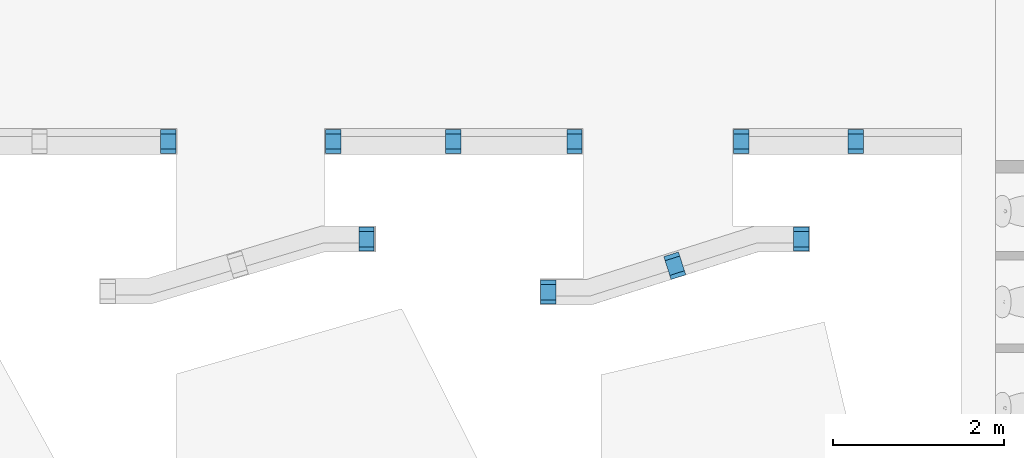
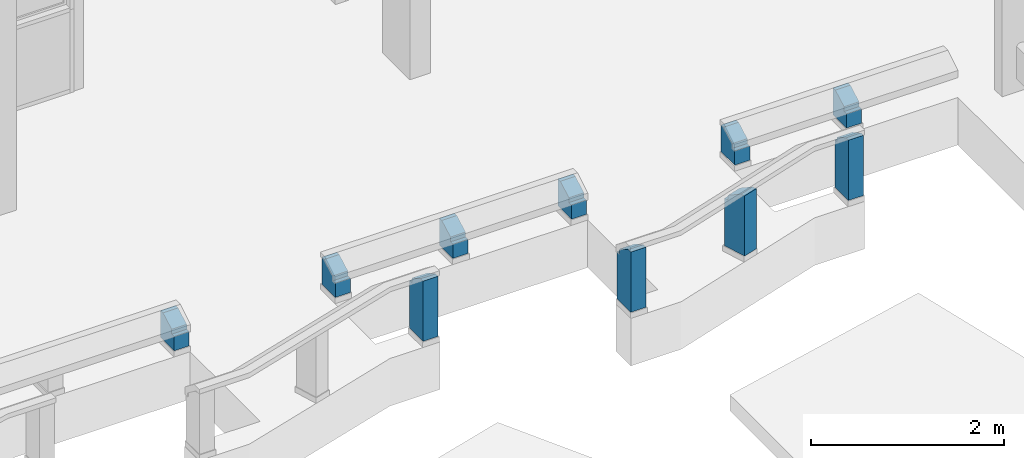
# One storey, part 96 of 117: 10 walls, 10 openings.
"""IFC4 building model written with IfcOpenShell, lengths in metres."""

from ifc_helpers import new_model, entity, si_unit, converted_unit, derived_unit, direction, frame, origin, place, context, subcontext, project, spatial, indexed_curve, outline, extrude, polygons, material, type_object, element, save


model = new_model("IFC4")

# Units and contexts
model_context = context("Model", 3, precision=1e-05, world=origin(), true_north=direction((6.123031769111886e-17, 1.0)))
body_context = subcontext(model_context, "Body", "Model", "MODEL_VIEW")
ifc_project = project(units=[si_unit("LENGTHUNIT", "METRE"), si_unit("AREAUNIT", "SQUARE_METRE"), si_unit("VOLUMEUNIT", "CUBIC_METRE"), converted_unit("PLANEANGLEUNIT", "DEGREE", entity("IfcRatioMeasure", 0.017453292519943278), si_unit("PLANEANGLEUNIT", "RADIAN"), dimensions=[0, 0, 0, 0, 0, 0, 0]), si_unit("MASSUNIT", "GRAM", prefix="KILO"), derived_unit("MASSDENSITYUNIT", [(si_unit("MASSUNIT", "GRAM", prefix="KILO"), 1), (si_unit("LENGTHUNIT", "METRE"), -3)]), derived_unit("MOMENTOFINERTIAUNIT", [(si_unit("LENGTHUNIT", "METRE"), 4)]), si_unit("TIMEUNIT", "SECOND"), si_unit("FREQUENCYUNIT", "HERTZ"), si_unit("THERMODYNAMICTEMPERATUREUNIT", "DEGREE_CELSIUS"), derived_unit("THERMALTRANSMITTANCEUNIT", [(si_unit("MASSUNIT", "GRAM", prefix="KILO"), 1), (si_unit("THERMODYNAMICTEMPERATUREUNIT", "KELVIN"), -1), (si_unit("TIMEUNIT", "SECOND"), -3)]), derived_unit("VOLUMETRICFLOWRATEUNIT", [(si_unit("LENGTHUNIT", "METRE"), 3), (si_unit("TIMEUNIT", "SECOND"), -1)]), derived_unit("MASSFLOWRATEUNIT", [(si_unit("MASSUNIT", "GRAM", prefix="KILO"), 1), (si_unit("TIMEUNIT", "SECOND"), -1)]), derived_unit("ROTATIONALFREQUENCYUNIT", [(si_unit("TIMEUNIT", "SECOND"), -1)]), si_unit("ELECTRICCURRENTUNIT", "AMPERE"), si_unit("ELECTRICVOLTAGEUNIT", "VOLT"), si_unit("POWERUNIT", "WATT"), si_unit("FORCEUNIT", "NEWTON", prefix="KILO"), si_unit("ILLUMINANCEUNIT", "LUX"), si_unit("LUMINOUSFLUXUNIT", "LUMEN"), si_unit("LUMINOUSINTENSITYUNIT", "CANDELA"), derived_unit("USERDEFINED", [(si_unit("MASSUNIT", "GRAM", prefix="KILO"), -1), (si_unit("LENGTHUNIT", "METRE"), -2), (si_unit("TIMEUNIT", "SECOND"), 3), (si_unit("LUMINOUSFLUXUNIT", "LUMEN"), 1)]), derived_unit("SOUNDPOWERUNIT", [(si_unit("MASSUNIT", "GRAM", prefix="KILO"), 1), (si_unit("LENGTHUNIT", "METRE"), 2), (si_unit("TIMEUNIT", "SECOND"), -3)]), derived_unit("SOUNDPRESSUREUNIT", [(si_unit("MASSUNIT", "GRAM", prefix="KILO"), 1), (si_unit("LENGTHUNIT", "METRE"), -1), (si_unit("TIMEUNIT", "SECOND"), -2)]), derived_unit("LINEARVELOCITYUNIT", [(si_unit("LENGTHUNIT", "METRE"), 1), (si_unit("TIMEUNIT", "SECOND"), -1)]), si_unit("PRESSUREUNIT", "PASCAL"), derived_unit("USERDEFINED", [(si_unit("LENGTHUNIT", "METRE"), -2), (si_unit("MASSUNIT", "GRAM", prefix="KILO"), 1), (si_unit("TIMEUNIT", "SECOND"), -2)]), derived_unit("LINEARFORCEUNIT", [(si_unit("MASSUNIT", "GRAM", prefix="KILO"), 1), (si_unit("LENGTHUNIT", "METRE"), 1), (si_unit("TIMEUNIT", "SECOND"), -2), (si_unit("LENGTHUNIT", "METRE"), -1)]), derived_unit("PLANARFORCEUNIT", [(si_unit("MASSUNIT", "GRAM", prefix="KILO"), 1), (si_unit("LENGTHUNIT", "METRE"), 1), (si_unit("TIMEUNIT", "SECOND"), -2), (si_unit("LENGTHUNIT", "METRE"), -2)])], contexts=[model_context])

# Site, building, storey
site_placement = place(None, origin())
site = spatial("IfcSite", under=ifc_project, at=site_placement, Name="Superficie", CompositionType="ELEMENT")
building_placement = place(site_placement, origin())
building = spatial("IfcBuilding", under=site, at=building_placement, CompositionType="ELEMENT")
storey_placement = place(building_placement, origin())
storey = spatial("IfcBuildingStorey", under=building, at=storey_placement, Name="Nivel 0", CompositionType="ELEMENT", Elevation=0.0)

# Wall, opening
ifc_material = material(Name="Muro por defecto", Category="Varios")
wall_type = type_object("IfcWallType", Name="Muro básico:Por defecto - 18 cm 2", PredefinedType="STANDARD")
wall_1_placement = place(storey_placement, frame((11.321799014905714, -6.1541707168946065, 0.07000000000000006), z_axis=(0.0, 0.0, 1.0), x_axis=(0.0, -1.0, 0.0)))
wall_1 = element("IfcWall", 1, at=wall_1_placement, inside=storey, type_object=wall_type, material=ifc_material, Name="Muro básico:Por defecto - 18 cm 2", ObjectType="Muro básico:Por defecto - 18 cm 2", PredefinedType="NOTDEFINED", context=body_context, shape_type="Tessellation", body=[
    polygons([(0.0, -0.0900000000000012, 0.0), (0.27999999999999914, -0.0900000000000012, 0.0), (0.27999999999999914, -0.0900000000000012, 0.17999999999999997), (0.22999999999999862, -0.0900000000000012, 0.17999999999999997), (0.22999999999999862, -0.0900000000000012, 0.24069791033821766), (0.04999999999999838, -0.0900000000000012, 0.3399999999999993), (0.0, -0.0900000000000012, 0.3399999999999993), (0.0, 0.08999999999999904, 0.0), (0.0, 0.08999999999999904, 0.3399999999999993), (0.04999999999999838, 0.08999999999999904, 0.3399999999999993), (0.22999999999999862, 0.08999999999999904, 0.24069791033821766), (0.22999999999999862, 0.08999999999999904, 0.17999999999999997), (0.27999999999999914, 0.08999999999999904, 0.17999999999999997), (0.27999999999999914, 0.08999999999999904, 0.0)], [[[1, 2, 3, 4, 5, 6, 7]], [[8, 9, 10, 11, 12, 13, 14]], [[2, 1, 8, 14]], [[1, 7, 9, 8]], [[3, 2, 14, 13]], [[4, 3, 13, 12]], [[5, 4, 12, 11]], [[6, 5, 11, 10]], [[7, 6, 10, 9]]], closed=True),
])
opening_1_placement = place(wall_1_placement, origin())
element("IfcOpeningElement", 2, at=opening_1_placement, cuts=wall_1, Name="Muro básico:Por defecto - 18 cm 2", PredefinedType="OPENING", context=body_context, shape_type="SweptSolid", body=[
    extrude(outline(indexed_curve([(-0.036810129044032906, -0.0128641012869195), (0.04182978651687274, -0.012864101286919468), (-0.005019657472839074, 0.025728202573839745), (-0.036810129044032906, -0.0128641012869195)], self_intersect=False)), frame((0.2466666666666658, 0.08999999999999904, 0.20023263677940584), z_axis=(0.0, -1.0, 0.0), x_axis=(-0.6358094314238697, 0.0, 0.771846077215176)), (0.0, 0.0, 1.0), 0.18),
])

wall_2_placement = place(storey_placement, frame((13.247026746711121, -6.154170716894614, 0.07000000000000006), z_axis=(0.0, 0.0, 1.0), x_axis=(0.0, -1.0, 0.0)))
wall_2 = element("IfcWall", 3, at=wall_2_placement, inside=storey, type_object=wall_type, material=ifc_material, Name="Muro básico:Por defecto - 18 cm 2", ObjectType="Muro básico:Por defecto - 18 cm 2", PredefinedType="NOTDEFINED", context=body_context, shape_type="Tessellation", body=[
    polygons([(0.0, -0.0900000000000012, 0.0), (0.27999999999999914, -0.0900000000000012, 0.0), (0.27999999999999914, -0.0900000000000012, 0.17999999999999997), (0.22999999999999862, -0.0900000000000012, 0.17999999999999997), (0.22999999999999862, -0.0900000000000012, 0.24069791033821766), (0.04999999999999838, -0.0900000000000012, 0.3399999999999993), (0.0, -0.0900000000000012, 0.3399999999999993), (0.0, 0.08999999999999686, 0.0), (0.0, 0.08999999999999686, 0.3399999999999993), (0.04999999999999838, 0.08999999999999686, 0.3399999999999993), (0.22999999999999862, 0.08999999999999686, 0.24069791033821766), (0.22999999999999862, 0.08999999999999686, 0.17999999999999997), (0.27999999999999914, 0.08999999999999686, 0.17999999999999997), (0.27999999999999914, 0.08999999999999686, 0.0)], [[[1, 2, 3, 4, 5, 6, 7]], [[8, 9, 10, 11, 12, 13, 14]], [[2, 1, 8, 14]], [[1, 7, 9, 8]], [[3, 2, 14, 13]], [[4, 3, 13, 12]], [[5, 4, 12, 11]], [[6, 5, 11, 10]], [[7, 6, 10, 9]]], closed=True),
])
opening_2_placement = place(wall_2_placement, origin())
element("IfcOpeningElement", 4, at=opening_2_placement, cuts=wall_2, Name="Muro básico:Por defecto - 18 cm 2", PredefinedType="OPENING", context=body_context, shape_type="SweptSolid", body=[
    extrude(outline(indexed_curve([(-0.03681012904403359, -0.012864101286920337), (0.041829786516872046, -0.012864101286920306), (-0.005019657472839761, 0.025728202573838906), (-0.03681012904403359, -0.012864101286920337)], self_intersect=False)), frame((0.24666666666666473, 0.08999999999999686, 0.20023263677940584), z_axis=(0.0, -1.0, 0.0), x_axis=(-0.6358094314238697, 0.0, 0.771846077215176)), (0.0, 0.0, 1.0), 0.18),
])

wall_3_placement = place(storey_placement, frame((14.65191288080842, -6.154170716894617, 0.07000000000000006), z_axis=(0.0, 0.0, 1.0), x_axis=(0.0, -1.0, 0.0)))
wall_3 = element("IfcWall", 5, at=wall_3_placement, inside=storey, type_object=wall_type, material=ifc_material, Name="Muro básico:Por defecto - 18 cm 2", ObjectType="Muro básico:Por defecto - 18 cm 2", PredefinedType="NOTDEFINED", context=body_context, shape_type="Tessellation", body=[
    polygons([(0.0, -0.08999999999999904, 0.0), (0.27999999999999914, -0.08999999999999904, 0.0), (0.27999999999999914, -0.08999999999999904, 0.17999999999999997), (0.22999999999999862, -0.08999999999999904, 0.17999999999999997), (0.22999999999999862, -0.08999999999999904, 0.24069791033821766), (0.04999999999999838, -0.08999999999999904, 0.3399999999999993), (0.0, -0.08999999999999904, 0.3399999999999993), (0.0, 0.08999999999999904, 0.0), (0.0, 0.08999999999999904, 0.3399999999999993), (0.04999999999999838, 0.08999999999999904, 0.3399999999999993), (0.22999999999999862, 0.08999999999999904, 0.24069791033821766), (0.22999999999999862, 0.08999999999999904, 0.17999999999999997), (0.27999999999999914, 0.08999999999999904, 0.17999999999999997), (0.27999999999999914, 0.08999999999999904, 0.0)], [[[1, 2, 3, 4, 5, 6, 7]], [[8, 9, 10, 11, 12, 13, 14]], [[2, 1, 8, 14]], [[1, 7, 9, 8]], [[3, 2, 14, 13]], [[4, 3, 13, 12]], [[5, 4, 12, 11]], [[6, 5, 11, 10]], [[7, 6, 10, 9]]], closed=True),
])
opening_3_placement = place(wall_3_placement, origin())
element("IfcOpeningElement", 6, at=opening_3_placement, cuts=wall_3, Name="Muro básico:Por defecto - 18 cm 2", PredefinedType="OPENING", context=body_context, shape_type="SweptSolid", body=[
    extrude(outline(indexed_curve([(-0.036810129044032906, -0.0128641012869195), (0.04182978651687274, -0.012864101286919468), (-0.005019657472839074, 0.025728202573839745), (-0.036810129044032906, -0.0128641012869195)], self_intersect=False)), frame((0.2466666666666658, 0.08999999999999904, 0.20023263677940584), z_axis=(0.0, -1.0, 0.0), x_axis=(-0.6358094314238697, 0.0, 0.771846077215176)), (0.0, 0.0, 1.0), 0.18),
])

wall_4_placement = place(storey_placement, frame((16.066799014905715, -6.154170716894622, 0.07000000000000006), z_axis=(0.0, 0.0, 1.0), x_axis=(0.0, -1.0, 0.0)))
wall_4 = element("IfcWall", 7, at=wall_4_placement, inside=storey, type_object=wall_type, material=ifc_material, Name="Muro básico:Por defecto - 18 cm 2", ObjectType="Muro básico:Por defecto - 18 cm 2", PredefinedType="NOTDEFINED", context=body_context, shape_type="Tessellation", body=[
    polygons([(0.0, -0.0900000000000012, 0.0), (0.27999999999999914, -0.0900000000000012, 0.0), (0.27999999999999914, -0.0900000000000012, 0.17999999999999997), (0.22999999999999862, -0.0900000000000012, 0.17999999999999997), (0.22999999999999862, -0.0900000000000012, 0.24069791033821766), (0.04999999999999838, -0.0900000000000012, 0.3399999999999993), (0.0, -0.0900000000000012, 0.3399999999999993), (0.0, 0.08999999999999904, 0.0), (0.0, 0.08999999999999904, 0.3399999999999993), (0.04999999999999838, 0.08999999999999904, 0.3399999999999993), (0.22999999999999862, 0.08999999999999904, 0.24069791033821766), (0.22999999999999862, 0.08999999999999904, 0.17999999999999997), (0.27999999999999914, 0.08999999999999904, 0.17999999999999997), (0.27999999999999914, 0.08999999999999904, 0.0)], [[[1, 2, 3, 4, 5, 6, 7]], [[8, 9, 10, 11, 12, 13, 14]], [[2, 1, 8, 14]], [[1, 7, 9, 8]], [[3, 2, 14, 13]], [[4, 3, 13, 12]], [[5, 4, 12, 11]], [[6, 5, 11, 10]], [[7, 6, 10, 9]]], closed=True),
])
opening_4_placement = place(wall_4_placement, origin())
element("IfcOpeningElement", 8, at=opening_4_placement, cuts=wall_4, Name="Muro básico:Por defecto - 18 cm 2", PredefinedType="OPENING", context=body_context, shape_type="SweptSolid", body=[
    extrude(outline(indexed_curve([(-0.036810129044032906, -0.0128641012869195), (0.04182978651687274, -0.012864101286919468), (-0.005019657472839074, 0.025728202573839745), (-0.036810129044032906, -0.0128641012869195)], self_intersect=False)), frame((0.2466666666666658, 0.08999999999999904, 0.20023263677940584), z_axis=(0.0, -1.0, 0.0), x_axis=(-0.6358094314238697, 0.0, 0.771846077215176)), (0.0, 0.0, 1.0), 0.18),
])

wall_5_placement = place(storey_placement, frame((18.017596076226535, -6.154170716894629, 0.07000000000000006), z_axis=(0.0, 0.0, 1.0), x_axis=(0.0, -1.0, 0.0)))
wall_5 = element("IfcWall", 9, at=wall_5_placement, inside=storey, type_object=wall_type, material=ifc_material, Name="Muro básico:Por defecto - 18 cm 2", ObjectType="Muro básico:Por defecto - 18 cm 2", PredefinedType="NOTDEFINED", context=body_context, shape_type="Tessellation", body=[
    polygons([(0.0, -0.0900000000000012, 0.0), (0.27999999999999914, -0.0900000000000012, 0.0), (0.27999999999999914, -0.0900000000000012, 0.17999999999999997), (0.22999999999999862, -0.0900000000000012, 0.17999999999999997), (0.22999999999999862, -0.0900000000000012, 0.24069791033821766), (0.04999999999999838, -0.0900000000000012, 0.3399999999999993), (0.0, -0.0900000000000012, 0.3399999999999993), (0.0, 0.0900000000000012, 0.0), (0.0, 0.0900000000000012, 0.3399999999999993), (0.04999999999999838, 0.0900000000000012, 0.3399999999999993), (0.22999999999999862, 0.0900000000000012, 0.24069791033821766), (0.22999999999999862, 0.0900000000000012, 0.17999999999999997), (0.27999999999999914, 0.0900000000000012, 0.17999999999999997), (0.27999999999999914, 0.0900000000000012, 0.0)], [[[1, 2, 3, 4, 5, 6, 7]], [[8, 9, 10, 11, 12, 13, 14]], [[2, 1, 8, 14]], [[1, 7, 9, 8]], [[3, 2, 14, 13]], [[4, 3, 13, 12]], [[5, 4, 12, 11]], [[6, 5, 11, 10]], [[7, 6, 10, 9]]], closed=True),
])
opening_5_placement = place(wall_5_placement, origin())
element("IfcOpeningElement", 10, at=opening_5_placement, cuts=wall_5, Name="Muro básico:Por defecto - 18 cm 2", PredefinedType="OPENING", context=body_context, shape_type="SweptSolid", body=[
    extrude(outline(indexed_curve([(-0.03681012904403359, -0.012864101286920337), (0.041829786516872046, -0.012864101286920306), (-0.005019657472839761, 0.025728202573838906), (-0.03681012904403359, -0.012864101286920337)], self_intersect=False)), frame((0.24666666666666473, 0.08999999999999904, 0.20023263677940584), z_axis=(0.0, -1.0, 0.0), x_axis=(-0.6358094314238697, 0.0, 0.771846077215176)), (0.0, 0.0, 1.0), 0.18),
])

wall_6_placement = place(storey_placement, frame((19.352596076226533, -6.154170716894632, 0.07000000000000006), z_axis=(0.0, 0.0, 1.0), x_axis=(0.0, -1.0, 0.0)))
wall_6 = element("IfcWall", 11, at=wall_6_placement, inside=storey, type_object=wall_type, material=ifc_material, Name="Muro básico:Por defecto - 18 cm 2", ObjectType="Muro básico:Por defecto - 18 cm 2", PredefinedType="NOTDEFINED", context=body_context, shape_type="Tessellation", body=[
    polygons([(0.0, -0.08999999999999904, 0.0), (0.27999999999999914, -0.08999999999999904, 0.0), (0.27999999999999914, -0.08999999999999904, 0.17999999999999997), (0.22999999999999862, -0.08999999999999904, 0.17999999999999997), (0.22999999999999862, -0.08999999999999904, 0.24069791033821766), (0.04999999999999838, -0.08999999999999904, 0.3399999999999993), (0.0, -0.08999999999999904, 0.3399999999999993), (0.0, 0.08999999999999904, 0.0), (0.0, 0.08999999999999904, 0.3399999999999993), (0.04999999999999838, 0.08999999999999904, 0.3399999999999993), (0.22999999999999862, 0.08999999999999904, 0.24069791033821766), (0.22999999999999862, 0.08999999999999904, 0.17999999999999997), (0.27999999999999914, 0.08999999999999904, 0.17999999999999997), (0.27999999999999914, 0.08999999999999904, 0.0)], [[[1, 2, 3, 4, 5, 6, 7]], [[8, 9, 10, 11, 12, 13, 14]], [[2, 1, 8, 14]], [[1, 7, 9, 8]], [[3, 2, 14, 13]], [[4, 3, 13, 12]], [[5, 4, 12, 11]], [[6, 5, 11, 10]], [[7, 6, 10, 9]]], closed=True),
])
opening_6_placement = place(wall_6_placement, origin())
element("IfcOpeningElement", 12, at=opening_6_placement, cuts=wall_6, Name="Muro básico:Por defecto - 18 cm 2", PredefinedType="OPENING", context=body_context, shape_type="SweptSolid", body=[
    extrude(outline(indexed_curve([(-0.036810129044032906, -0.0128641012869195), (0.04182978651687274, -0.012864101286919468), (-0.005019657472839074, 0.025728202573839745), (-0.036810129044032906, -0.0128641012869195)], self_intersect=False)), frame((0.2466666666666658, 0.08999999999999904, 0.20023263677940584), z_axis=(0.0, -1.0, 0.0), x_axis=(-0.6358094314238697, 0.0, 0.771846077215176)), (0.0, 0.0, 1.0), 0.18),
])

wall_7_placement = place(storey_placement, frame((13.637140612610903, -7.574170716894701, 0.07000000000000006), z_axis=(0.0, 0.0, 1.0), x_axis=(0.0, 1.0, 0.0)))
wall_7 = element("IfcWall", 13, at=wall_7_placement, inside=storey, type_object=wall_type, material=ifc_material, Name="Muro básico:Por defecto - 18 cm 2", ObjectType="Muro básico:Por defecto - 18 cm 2", PredefinedType="NOTDEFINED", context=body_context, shape_type="Tessellation", body=[
    polygons([(2.1657342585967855e-15, -0.0900000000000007, 0.0), (0.27999999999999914, -0.09000000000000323, 0.0), (0.27999999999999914, -0.09000000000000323, 0.6000000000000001), (0.22999999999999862, -0.09000000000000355, 0.6000000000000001), (0.22999999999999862, -0.09000000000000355, 0.6606979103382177), (0.04999999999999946, -0.09000000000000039, 0.7599999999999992), (2.1657342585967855e-15, -0.0900000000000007, 0.7599999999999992), (0.0, 0.09000000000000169, 0.0), (0.0, 0.09000000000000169, 0.7599999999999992), (0.0499999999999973, 0.09000000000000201, 0.7599999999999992), (0.22999999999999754, 0.08999999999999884, 0.6606979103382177), (0.22999999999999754, 0.08999999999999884, 0.6000000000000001), (0.2799999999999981, 0.08999999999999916, 0.6000000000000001), (0.2799999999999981, 0.08999999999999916, 0.0)], [[[1, 2, 3, 4, 5, 6, 7]], [[8, 9, 10, 11, 12, 13, 14]], [[2, 1, 8, 14]], [[1, 7, 9, 8]], [[3, 2, 14, 13]], [[4, 3, 13, 12]], [[5, 4, 12, 11]], [[6, 5, 11, 10]], [[7, 6, 10, 9]]], closed=True),
])
opening_7_placement = place(wall_7_placement, origin())
element("IfcOpeningElement", 14, at=opening_7_placement, cuts=wall_7, Name="Muro básico:Por defecto - 18 cm 2", PredefinedType="OPENING", context=body_context, shape_type="SweptSolid", body=[
    extrude(outline(indexed_curve([(-0.03681012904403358, -0.012864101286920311), (0.041829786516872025, -0.012864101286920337), (-0.0050196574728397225, 0.025728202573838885), (-0.03681012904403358, -0.012864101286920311)], self_intersect=False)), frame((0.24666666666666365, 0.0900000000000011, 0.6202326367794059), z_axis=(0.0, -1.0, 0.0), x_axis=(-0.6358094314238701, 0.0, 0.7718460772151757)), (0.0, 0.0, 1.0), 0.18),
])

wall_8_placement = place(storey_placement, frame((18.71679901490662, -7.574170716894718, 0.07000000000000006), z_axis=(0.0, 0.0, 1.0), x_axis=(0.0, 1.0, 0.0)))
wall_8 = element("IfcWall", 15, at=wall_8_placement, inside=storey, type_object=wall_type, material=ifc_material, Name="Muro básico:Por defecto - 18 cm 2", ObjectType="Muro básico:Por defecto - 18 cm 2", PredefinedType="NOTDEFINED", context=body_context, shape_type="Tessellation", body=[
    polygons([(0.0, -0.0900000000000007, 0.0), (0.27999999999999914, -0.09000000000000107, 0.0), (0.27999999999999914, -0.09000000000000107, 0.6000000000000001), (0.22999999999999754, -0.09000000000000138, 0.6000000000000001), (0.22999999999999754, -0.09000000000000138, 0.6606979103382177), (0.0499999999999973, -0.09000000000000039, 0.7599999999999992), (0.0, -0.0900000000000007, 0.7599999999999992), (1.0828671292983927e-15, 0.08999999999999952, 0.0), (1.0828671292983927e-15, 0.08999999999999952, 0.7599999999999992), (0.04999999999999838, 0.08999999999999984, 0.7599999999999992), (0.22999999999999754, 0.08999999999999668, 0.6606979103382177), (0.22999999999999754, 0.08999999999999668, 0.6000000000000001), (0.2799999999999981, 0.089999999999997, 0.6000000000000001), (0.2799999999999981, 0.089999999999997, 0.0)], [[[1, 2, 3, 4, 5, 6, 7]], [[8, 9, 10, 11, 12, 13, 14]], [[2, 1, 8, 14]], [[1, 7, 9, 8]], [[3, 2, 14, 13]], [[4, 3, 13, 12]], [[5, 4, 12, 11]], [[6, 5, 11, 10]], [[7, 6, 10, 9]]], closed=True),
])
opening_8_placement = place(wall_8_placement, origin())
element("IfcOpeningElement", 16, at=opening_8_placement, cuts=wall_8, Name="Muro básico:Por defecto - 18 cm 2", PredefinedType="OPENING", context=body_context, shape_type="SweptSolid", body=[
    extrude(outline(indexed_curve([(-0.036810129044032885, -0.012864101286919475), (0.04182978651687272, -0.0128641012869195), (-0.005019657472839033, 0.025728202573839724), (-0.036810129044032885, -0.012864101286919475)], self_intersect=False)), frame((0.24666666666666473, 0.08999999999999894, 0.6202326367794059), z_axis=(0.0, -1.0, 0.0), x_axis=(-0.6358094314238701, 0.0, 0.7718460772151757)), (0.0, 0.0, 1.0), 0.18),
])

wall_9_placement = place(storey_placement, frame((17.28122083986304, -7.879225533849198, 0.06999999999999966), z_axis=(0.0, 0.0, 1.0), x_axis=(-0.3029842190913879, 0.9529955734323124, 0.0)))
wall_9 = element("IfcWall", 17, at=wall_9_placement, inside=storey, type_object=wall_type, material=ifc_material, Name="Muro básico:Por defecto - 18 cm 2", ObjectType="Muro básico:Por defecto - 18 cm 2", PredefinedType="NOTDEFINED", context=body_context, shape_type="Tessellation", body=[
    polygons([(1.0828671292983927e-15, -0.0899999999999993, 0.0), (0.2800000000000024, -0.08999999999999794, 0.0), (0.2800000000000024, -0.08999999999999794, 0.6000000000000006), (0.23000000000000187, -0.09000000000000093, 0.6000000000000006), (0.23000000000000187, -0.09000000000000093, 0.6606979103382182), (0.050000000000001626, -0.09000000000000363, 0.7599999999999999), (1.0828671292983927e-15, -0.0899999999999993, 0.7599999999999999), (1.0828671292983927e-15, 0.08999999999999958, 0.0), (1.0828671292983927e-15, 0.08999999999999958, 0.7599999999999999), (0.050000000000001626, 0.09000000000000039, 0.7599999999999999), (0.23000000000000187, 0.09000000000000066, 0.6606979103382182), (0.23000000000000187, 0.09000000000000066, 0.6000000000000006), (0.2800000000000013, 0.08999999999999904, 0.6000000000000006), (0.2800000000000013, 0.08999999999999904, 0.0)], [[[1, 2, 3, 4, 5, 6, 7]], [[8, 9, 10, 11, 12, 13, 14]], [[2, 1, 8, 14]], [[1, 7, 9, 8]], [[3, 2, 14, 13]], [[4, 3, 13, 12]], [[5, 4, 12, 11]], [[6, 5, 11, 10]], [[7, 6, 10, 9]]], closed=True),
])
opening_9_placement = place(wall_9_placement, origin())
element("IfcOpeningElement", 18, at=opening_9_placement, cuts=wall_9, Name="Muro básico:Por defecto - 18 cm 2", PredefinedType="OPENING", context=body_context, shape_type="SweptSolid", body=[
    extrude(outline(indexed_curve([(-0.03681012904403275, -0.012864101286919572), (0.041829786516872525, -0.012864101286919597), (-0.005019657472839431, 0.02572820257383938), (-0.03681012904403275, -0.012864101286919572)], self_intersect=False)), frame((0.24666666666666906, 0.09000000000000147, 0.6202326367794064), z_axis=(0.0, -1.0, 0.0), x_axis=(-0.6358094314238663, 0.0, 0.7718460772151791)), (0.0, 0.0, 1.0), 0.18),
])

wall_10_placement = place(storey_placement, frame((15.759800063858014, -8.19414043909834, 0.07000000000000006), z_axis=(0.0, 0.0, 1.0), x_axis=(0.0, 1.0, 0.0)))
wall_10 = element("IfcWall", 19, at=wall_10_placement, inside=storey, type_object=wall_type, material=ifc_material, Name="Muro básico:Por defecto - 18 cm 2", ObjectType="Muro básico:Por defecto - 18 cm 2", PredefinedType="NOTDEFINED", context=body_context, shape_type="Tessellation", body=[
    polygons([(0.0, -0.09000000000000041, 0.0), (0.2799999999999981, -0.09000000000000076, 0.0), (0.2799999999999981, -0.09000000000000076, 0.6000000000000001), (0.22999999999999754, -0.09000000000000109, 0.6000000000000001), (0.22999999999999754, -0.09000000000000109, 0.6606979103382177), (0.0499999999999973, -0.0900000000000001, 0.7599999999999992), (0.0, -0.09000000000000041, 0.7599999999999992), (0.0, 0.08999999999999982, 0.0), (0.0, 0.08999999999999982, 0.7599999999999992), (0.0499999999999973, 0.09000000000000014, 0.7599999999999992), (0.22999999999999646, 0.08999999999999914, 0.6606979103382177), (0.22999999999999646, 0.08999999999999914, 0.6000000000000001), (0.2799999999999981, 0.08999999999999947, 0.6000000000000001), (0.2799999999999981, 0.08999999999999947, 0.0)], [[[1, 2, 3, 4, 5, 6, 7]], [[8, 9, 10, 11, 12, 13, 14]], [[2, 1, 8, 14]], [[1, 7, 9, 8]], [[3, 2, 14, 13]], [[4, 3, 13, 12]], [[5, 4, 12, 11]], [[6, 5, 11, 10]], [[7, 6, 10, 9]]], closed=True),
])
opening_10_placement = place(wall_10_placement, origin())
element("IfcOpeningElement", 20, at=opening_10_placement, cuts=wall_10, Name="Muro básico:Por defecto - 18 cm 2", PredefinedType="OPENING", context=body_context, shape_type="SweptSolid", body=[
    extrude(outline(indexed_curve([(-0.0368101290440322, -0.012864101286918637), (0.0418297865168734, -0.012864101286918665), (-0.005019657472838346, 0.025728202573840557), (-0.0368101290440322, -0.012864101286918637)], self_intersect=False)), frame((0.2466666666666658, 0.08999999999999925, 0.6202326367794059), z_axis=(0.0, -1.0, 0.0), x_axis=(-0.6358094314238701, 0.0, 0.7718460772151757)), (0.0, 0.0, 1.0), 0.18),
])

save(model, "model.ifc")
